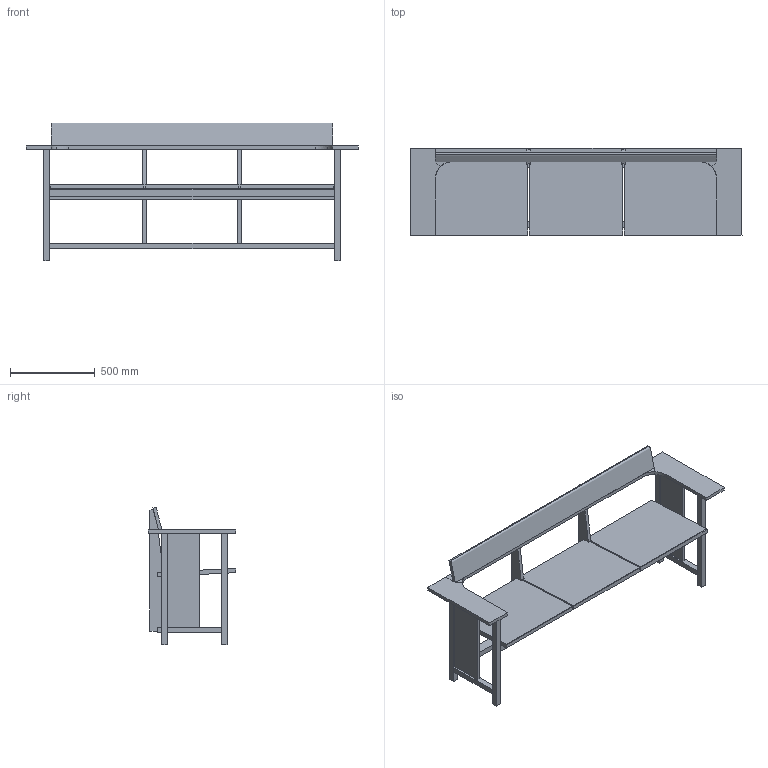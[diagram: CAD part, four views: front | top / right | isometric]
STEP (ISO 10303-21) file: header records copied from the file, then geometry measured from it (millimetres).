
FILE_DESCRIPTION(/* description */ (''),/* implementation_level */ '2;1');
FILE_NAME(/* name */ 'MC10_C~1',/* time_stamp */ '2021-04-13T09:28:07+02:00',/* author */ (''),/* organization */ (''),/* preprocessor_version */ 'ST-DEVELOPER v16.5',/* originating_system */ '',/* authorisation */ '');
FILE_SCHEMA (('AUTOMOTIVE_DESIGN'));
Length unit declared in the file: millimetre
Products named in the file (1): Document
Bounding box: 1960 x 516.35 x 811.71 mm (x, y, z)
Surface area: 4805062.3 mm2 (no closed solid volume)
Topology: 0 solids, 111 shells, 135 faces, 577 edges, 550 vertices
Faces by surface type: bspline 135
Entity records: 9801 total; most frequent: CARTESIAN_POINT 4167, B_SPLINE_CURVE_WITH_KNOTS 1165, ORIENTED_EDGE 624, PCURVE 624, DEFINITIONAL_REPRESENTATION 624, SURFACE_CURVE 576, EDGE_CURVE 576, VERTEX_POINT 548
